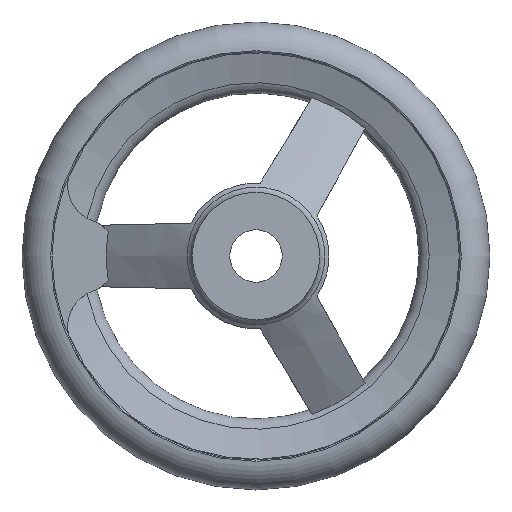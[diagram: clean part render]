
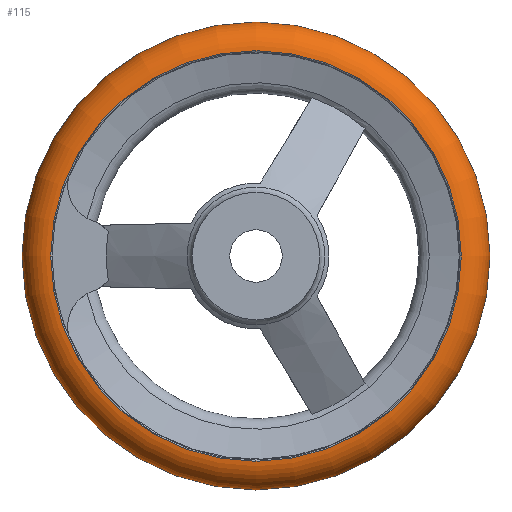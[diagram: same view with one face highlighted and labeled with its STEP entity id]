
A CAD part, left-side view. The second image highlights one B-rep face of the part: STEP entity #115.
In plain terms, the highlighted toroidal (fillet/blend) face has major radius 54.5 mm and minor radius 8 mm.
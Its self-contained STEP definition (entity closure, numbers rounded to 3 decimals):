
#115 = ADVANCED_FACE( '', ( #223, #224, #225 ), #226, .T. );
#223 = FACE_BOUND( '', #373, .T. );
#224 = FACE_OUTER_BOUND( '', #374, .T. );
#225 = FACE_OUTER_BOUND( '', #375, .T. );
#226 = TOROIDAL_SURFACE( '', #376, 54.5, 8. );
#373 = VERTEX_LOOP( '', #693 );
#374 = EDGE_LOOP( '', ( #694 ) );
#375 = EDGE_LOOP( '', ( #695 ) );
#376 = AXIS2_PLACEMENT_3D( '', #696, #697, #698 );
#693 = VERTEX_POINT( '', #823 );
#694 = ORIENTED_EDGE( '', *, *, #824, .T. );
#695 = ORIENTED_EDGE( '', *, *, #794, .F. );
#696 = CARTESIAN_POINT( '', ( 36., 0., 0. ) );
#697 = DIRECTION( '', ( 1., 0., 0. ) );
#698 = DIRECTION( '', ( 0., 1., 0. ) );
#794 = EDGE_CURVE( '', #954, #954, #955, .T. );
#823 = CARTESIAN_POINT( '', ( 36., 62.5, 0. ) );
#824 = EDGE_CURVE( '', #997, #997, #998, .T. );
#954 = VERTEX_POINT( '', #1448 );
#955 = CIRCLE( '', #1449, 54.833 );
#997 = VERTEX_POINT( '', #1553 );
#998 = CIRCLE( '', #1554, 54.833 );
#1448 = CARTESIAN_POINT( '', ( 43.993, 54.833, 0. ) );
#1449 = AXIS2_PLACEMENT_3D( '', #1649, #1650, #1651 );
#1553 = CARTESIAN_POINT( '', ( 28.007, 54.833, 0. ) );
#1554 = AXIS2_PLACEMENT_3D( '', #1707, #1708, #1709 );
#1649 = CARTESIAN_POINT( '', ( 43.993, 0., 0. ) );
#1650 = DIRECTION( '', ( 1., 0., 0. ) );
#1651 = DIRECTION( '', ( 0., 1., 0. ) );
#1707 = CARTESIAN_POINT( '', ( 28.007, 0., 0. ) );
#1708 = DIRECTION( '', ( 1., 0., 0. ) );
#1709 = DIRECTION( '', ( 0., 1., 0. ) );
